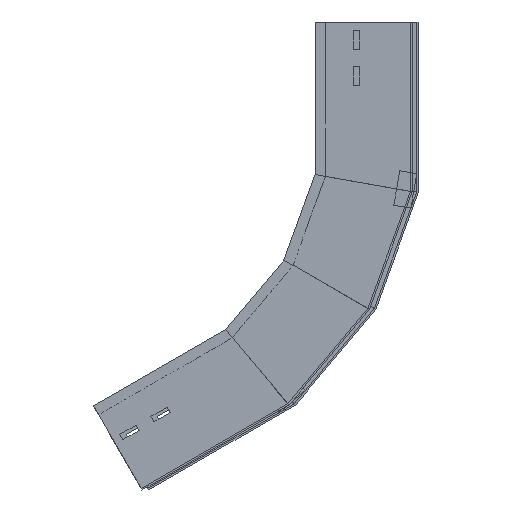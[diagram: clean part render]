
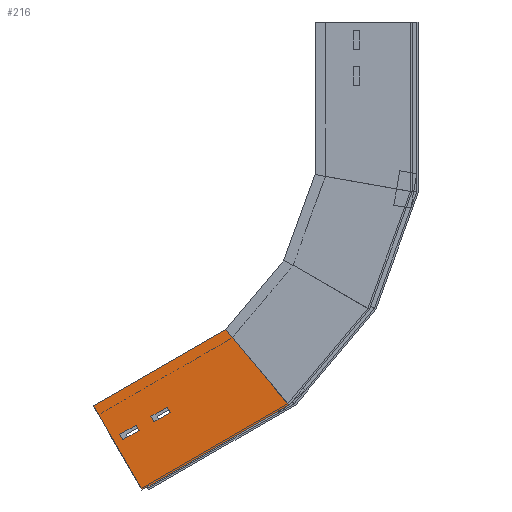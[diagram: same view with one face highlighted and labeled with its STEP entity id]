
A CAD part, left-side view. The second image highlights one B-rep face of the part: STEP entity #216.
In plain terms, the highlighted planar face has unit normal (-1, 0, 0) as drawn and (1, 0, 0) by its records, which use the part's own axes.
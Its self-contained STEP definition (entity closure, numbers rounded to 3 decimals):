
#5 = VERTEX_POINT ( 'NONE', #104 ) ;
#9 = DIRECTION ( 'NONE',  ( -1., 0., 0. ) ) ;
#20 = EDGE_CURVE ( 'NONE', #627, #1133, #364, .T. ) ;
#64 = CARTESIAN_POINT ( 'NONE',  ( 0., 112.5, 0. ) ) ;
#78 = CARTESIAN_POINT ( 'NONE',  ( 0., 61.5, -9.835 ) ) ;
#82 = AXIS2_PLACEMENT_3D ( 'NONE', #285, #9, #1082 ) ;
#90 = LINE ( 'NONE', #1376, #1581 ) ;
#104 = CARTESIAN_POINT ( 'NONE',  ( 0., 68.5, -73.505 ) ) ;
#110 = CARTESIAN_POINT ( 'NONE',  ( 0., 68.5, -31.835 ) ) ;
#147 = FACE_OUTER_BOUND ( 'NONE', #1425, .T. ) ;
#185 = CARTESIAN_POINT ( 'NONE',  ( 0., 68.5, -9.835 ) ) ;
#188 = ORIENTED_EDGE ( 'NONE', *, *, #246, .T. ) ;
#209 = LINE ( 'NONE', #714, #1258 ) ;
#216 = ADVANCED_FACE ( 'NONE', ( #1048, #147, #1476 ), #1038, .F. ) ;
#228 = DIRECTION ( 'NONE',  ( 0., 0., -1. ) ) ;
#246 = EDGE_CURVE ( 'NONE', #946, #1343, #442, .T. ) ;
#250 = CARTESIAN_POINT ( 'NONE',  ( 0., 61.5, -51.505 ) ) ;
#261 = VERTEX_POINT ( 'NONE', #582 ) ;
#267 = VERTEX_POINT ( 'NONE', #64 ) ;
#285 = CARTESIAN_POINT ( 'NONE',  ( 0., 0., 0. ) ) ;
#289 = CARTESIAN_POINT ( 'NONE',  ( 0., 68.5, -73.505 ) ) ;
#294 = VECTOR ( 'NONE', #764, 1000. ) ;
#302 = DIRECTION ( 'NONE',  ( 0., -1., 0. ) ) ;
#312 = CARTESIAN_POINT ( 'NONE',  ( 0., 61.5, -9.835 ) ) ;
#313 = DIRECTION ( 'NONE',  ( 0., 0., -1. ) ) ;
#343 = ORIENTED_EDGE ( 'NONE', *, *, #20, .T. ) ;
#351 = VERTEX_POINT ( 'NONE', #185 ) ;
#357 = EDGE_CURVE ( 'NONE', #946, #267, #209, .T. ) ;
#364 = LINE ( 'NONE', #110, #1329 ) ;
#393 = CARTESIAN_POINT ( 'NONE',  ( 0., 61.5, -31.835 ) ) ;
#420 = DIRECTION ( 'NONE',  ( 0., 0., -1. ) ) ;
#435 = VERTEX_POINT ( 'NONE', #1527 ) ;
#440 = CARTESIAN_POINT ( 'NONE',  ( 0., 112.5, 0. ) ) ;
#442 = LINE ( 'NONE', #669, #596 ) ;
#468 = DIRECTION ( 'NONE',  ( 0., 1., 0. ) ) ;
#478 = VECTOR ( 'NONE', #621, 1000. ) ;
#494 = ORIENTED_EDGE ( 'NONE', *, *, #648, .T. ) ;
#582 = CARTESIAN_POINT ( 'NONE',  ( 0., 61.5, -73.505 ) ) ;
#596 = VECTOR ( 'NONE', #313, 1000. ) ;
#597 = CARTESIAN_POINT ( 'NONE',  ( 0., 61.5, -51.505 ) ) ;
#621 = DIRECTION ( 'NONE',  ( 0., 0., -1. ) ) ;
#625 = ORIENTED_EDGE ( 'NONE', *, *, #1523, .F. ) ;
#627 = VERTEX_POINT ( 'NONE', #1558 ) ;
#645 = LINE ( 'NONE', #1584, #478 ) ;
#648 = EDGE_CURVE ( 'NONE', #1001, #5, #645, .T. ) ;
#650 = ORIENTED_EDGE ( 'NONE', *, *, #357, .F. ) ;
#666 = CARTESIAN_POINT ( 'NONE',  ( 0., 0., -196.6 ) ) ;
#669 = CARTESIAN_POINT ( 'NONE',  ( 0., 0., 0. ) ) ;
#685 = ORIENTED_EDGE ( 'NONE', *, *, #1677, .T. ) ;
#698 = ORIENTED_EDGE ( 'NONE', *, *, #725, .T. ) ;
#704 = CARTESIAN_POINT ( 'NONE',  ( 0., 68.5, -51.505 ) ) ;
#714 = CARTESIAN_POINT ( 'NONE',  ( 0., 0., 0. ) ) ;
#725 = EDGE_CURVE ( 'NONE', #261, #998, #1421, .T. ) ;
#740 = ORIENTED_EDGE ( 'NONE', *, *, #766, .T. ) ;
#748 = VECTOR ( 'NONE', #228, 1000. ) ;
#764 = DIRECTION ( 'NONE',  ( 0., 0., 1. ) ) ;
#766 = EDGE_CURVE ( 'NONE', #5, #261, #1185, .T. ) ;
#777 = VECTOR ( 'NONE', #420, 1000. ) ;
#778 = VECTOR ( 'NONE', #782, 1000. ) ;
#780 = ORIENTED_EDGE ( 'NONE', *, *, #1388, .T. ) ;
#782 = DIRECTION ( 'NONE',  ( 0., 1., 0. ) ) ;
#852 = VERTEX_POINT ( 'NONE', #312 ) ;
#904 = EDGE_LOOP ( 'NONE', ( #685, #1361, #343, #1274 ) ) ;
#946 = VERTEX_POINT ( 'NONE', #1381 ) ;
#977 = LINE ( 'NONE', #78, #1517 ) ;
#989 = LINE ( 'NONE', #1525, #748 ) ;
#998 = VERTEX_POINT ( 'NONE', #597 ) ;
#1001 = VERTEX_POINT ( 'NONE', #1125 ) ;
#1038 = PLANE ( 'NONE',  #82 ) ;
#1048 = FACE_BOUND ( 'NONE', #1588, .T. ) ;
#1082 = DIRECTION ( 'NONE',  ( 0., 0., 1. ) ) ;
#1112 = ORIENTED_EDGE ( 'NONE', *, *, #1245, .F. ) ;
#1116 = EDGE_CURVE ( 'NONE', #351, #627, #989, .T. ) ;
#1125 = CARTESIAN_POINT ( 'NONE',  ( 0., 68.5, -51.505 ) ) ;
#1132 = VECTOR ( 'NONE', #1215, 1000. ) ;
#1133 = VERTEX_POINT ( 'NONE', #393 ) ;
#1170 = CARTESIAN_POINT ( 'NONE',  ( 0., 68.5, -9.835 ) ) ;
#1185 = LINE ( 'NONE', #289, #1497 ) ;
#1215 = DIRECTION ( 'NONE',  ( 0., 1., 0. ) ) ;
#1245 = EDGE_CURVE ( 'NONE', #267, #435, #1571, .T. ) ;
#1258 = VECTOR ( 'NONE', #468, 1000. ) ;
#1274 = ORIENTED_EDGE ( 'NONE', *, *, #1397, .T. ) ;
#1329 = VECTOR ( 'NONE', #1415, 1000. ) ;
#1343 = VERTEX_POINT ( 'NONE', #666 ) ;
#1361 = ORIENTED_EDGE ( 'NONE', *, *, #1116, .T. ) ;
#1376 = CARTESIAN_POINT ( 'NONE',  ( 0., 33.621, -190.672 ) ) ;
#1381 = CARTESIAN_POINT ( 'NONE',  ( 0., 0., 0. ) ) ;
#1388 = EDGE_CURVE ( 'NONE', #998, #1001, #1496, .T. ) ;
#1397 = EDGE_CURVE ( 'NONE', #1133, #852, #977, .T. ) ;
#1415 = DIRECTION ( 'NONE',  ( 0., -1., 0. ) ) ;
#1419 = LINE ( 'NONE', #1170, #778 ) ;
#1421 = LINE ( 'NONE', #250, #294 ) ;
#1425 = EDGE_LOOP ( 'NONE', ( #1112, #650, #188, #625 ) ) ;
#1476 = FACE_BOUND ( 'NONE', #904, .T. ) ;
#1496 = LINE ( 'NONE', #704, #1132 ) ;
#1497 = VECTOR ( 'NONE', #302, 1000. ) ;
#1516 = DIRECTION ( 'NONE',  ( 0., 0., 1. ) ) ;
#1517 = VECTOR ( 'NONE', #1516, 1000. ) ;
#1523 = EDGE_CURVE ( 'NONE', #435, #1343, #90, .T. ) ;
#1525 = CARTESIAN_POINT ( 'NONE',  ( 0., 68.5, -9.835 ) ) ;
#1527 = CARTESIAN_POINT ( 'NONE',  ( 0., 112.5, -176.763 ) ) ;
#1529 = DIRECTION ( 'NONE',  ( 0., -0.985, -0.174 ) ) ;
#1558 = CARTESIAN_POINT ( 'NONE',  ( 0., 68.5, -31.835 ) ) ;
#1571 = LINE ( 'NONE', #440, #777 ) ;
#1581 = VECTOR ( 'NONE', #1529, 1000. ) ;
#1584 = CARTESIAN_POINT ( 'NONE',  ( 0., 68.5, -51.505 ) ) ;
#1588 = EDGE_LOOP ( 'NONE', ( #780, #494, #740, #698 ) ) ;
#1677 = EDGE_CURVE ( 'NONE', #852, #351, #1419, .T. ) ;
